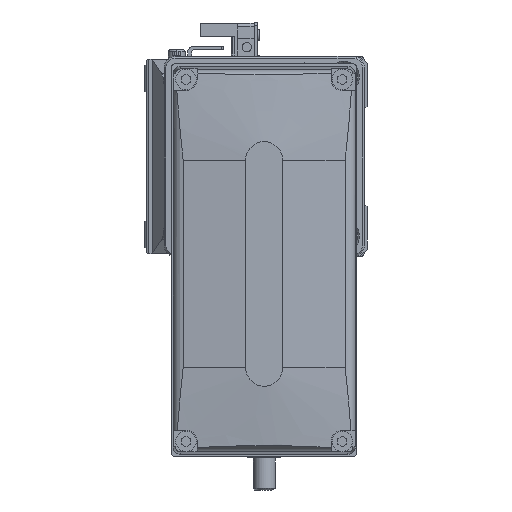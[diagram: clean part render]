
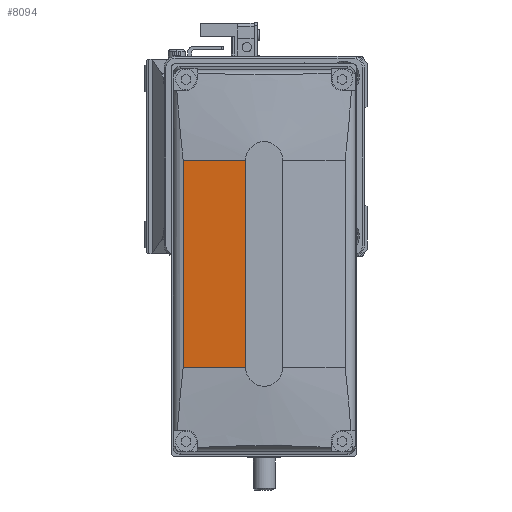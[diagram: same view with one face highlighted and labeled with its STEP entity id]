
A CAD part, left-side view. The second image highlights one B-rep face of the part: STEP entity #8094.
In plain terms, the highlighted planar face has unit normal (-0.996, 0.087, 0) as drawn and (-0.996, 0, -0.087) by its records, which use the part's own axes.
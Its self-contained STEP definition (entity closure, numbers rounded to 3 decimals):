
#798 = CARTESIAN_POINT ( 'NONE',  ( -50., 28., -5. ) ) ;
#3943 = DIRECTION ( 'NONE',  ( 0., 1., 0. ) ) ;
#4993 = CARTESIAN_POINT ( 'NONE',  ( -50., 128., -5. ) ) ;
#5330 = CARTESIAN_POINT ( 'NONE',  ( 43606.406, 28., -499000. ) ) ;
#7156 = VECTOR ( 'NONE', #15022, 1000. ) ;
#7609 = ORIENTED_EDGE ( 'NONE', *, *, #34907, .F. ) ;
#7908 = ORIENTED_EDGE ( 'NONE', *, *, #19819, .T. ) ;
#8094 = ADVANCED_FACE ( 'NONE', ( #36488 ), #19561, .T. ) ;
#8281 = EDGE_LOOP ( 'NONE', ( #34232, #32527, #7609, #7908 ) ) ;
#8679 = VECTOR ( 'NONE', #36567, 1000. ) ;
#11198 = LINE ( 'NONE', #12172, #7156 ) ;
#12172 = CARTESIAN_POINT ( 'NONE',  ( -50., 128., -5. ) ) ;
#12709 = AXIS2_PLACEMENT_3D ( 'NONE', #4993, #30728, #31223 ) ;
#12768 = DIRECTION ( 'NONE',  ( 0.087, 0., -0.996 ) ) ;
#12884 = VERTEX_POINT ( 'NONE', #32054 ) ;
#15022 = DIRECTION ( 'NONE',  ( 0., 1., 0. ) ) ;
#17609 = CARTESIAN_POINT ( 'NONE',  ( -48.525, -28., -21.861 ) ) ;
#19434 = VECTOR ( 'NONE', #3943, 1000. ) ;
#19561 = PLANE ( 'NONE',  #12709 ) ;
#19819 = EDGE_CURVE ( 'NONE', #12884, #32167, #11198, .T. ) ;
#24987 = LINE ( 'NONE', #27304, #31298 ) ;
#26938 = VERTEX_POINT ( 'NONE', #17609 ) ;
#27304 = CARTESIAN_POINT ( 'NONE',  ( 43606.406, -28., -499000. ) ) ;
#27955 = LINE ( 'NONE', #5330, #8679 ) ;
#30238 = EDGE_CURVE ( 'NONE', #37187, #32167, #27955, .T. ) ;
#30425 = EDGE_CURVE ( 'NONE', #26938, #37187, #36022, .T. ) ;
#30728 = DIRECTION ( 'NONE',  ( -0.996, 0., -0.087 ) ) ;
#31223 = DIRECTION ( 'NONE',  ( -0.087, 0., 0.996 ) ) ;
#31298 = VECTOR ( 'NONE', #12768, 1000. ) ;
#31525 = CARTESIAN_POINT ( 'NONE',  ( -48.525, 28., -21.861 ) ) ;
#32054 = CARTESIAN_POINT ( 'NONE',  ( -50., -28., -5. ) ) ;
#32167 = VERTEX_POINT ( 'NONE', #798 ) ;
#32527 = ORIENTED_EDGE ( 'NONE', *, *, #30425, .F. ) ;
#32545 = CARTESIAN_POINT ( 'NONE',  ( -48.525, 128., -21.861 ) ) ;
#34232 = ORIENTED_EDGE ( 'NONE', *, *, #30238, .F. ) ;
#34907 = EDGE_CURVE ( 'NONE', #12884, #26938, #24987, .T. ) ;
#36022 = LINE ( 'NONE', #32545, #19434 ) ;
#36488 = FACE_OUTER_BOUND ( 'NONE', #8281, .T. ) ;
#36567 = DIRECTION ( 'NONE',  ( -0.087, 0., 0.996 ) ) ;
#37187 = VERTEX_POINT ( 'NONE', #31525 ) ;
